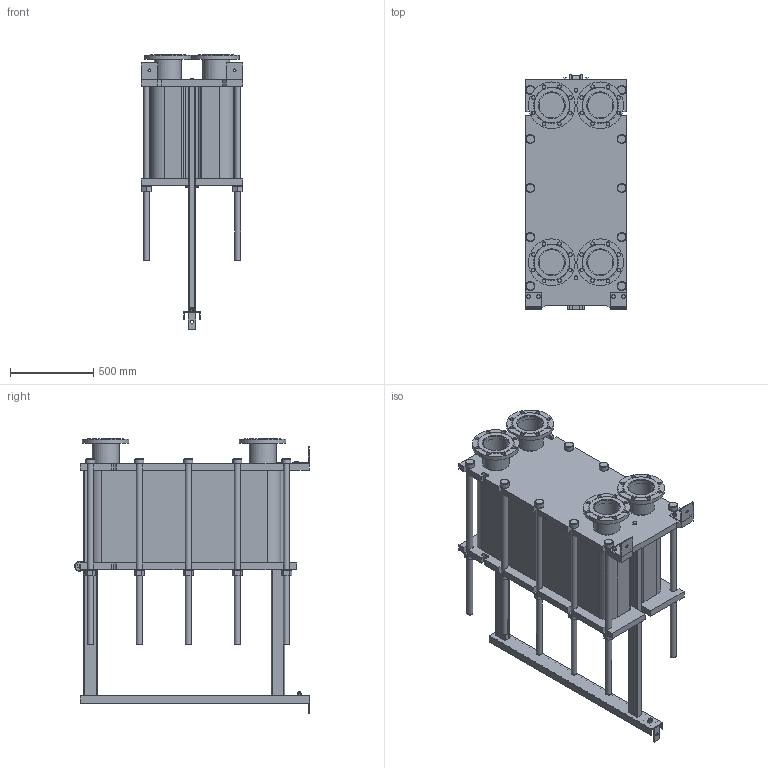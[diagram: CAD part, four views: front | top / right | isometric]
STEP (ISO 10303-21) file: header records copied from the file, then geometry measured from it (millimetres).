
FILE_DESCRIPTION(/* description */ (''),/* implementation_level */ '2;1');
FILE_NAME(/* name */ 'C:\Users\zhuro\Desktop\ENCO\TO\ЭН-041\ЭН-0,5-041-161-1.stp',/* time_stamp */ '2022-06-06T11:03:51+03:00',/* author */ ('zhuro'),/* organization */ (''),/* preprocessor_version */ 'ST-DEVELOPER v18.1',/* originating_system */ 'Autodesk Inventor 2022',/* authorisation */ '');
FILE_SCHEMA (('AUTOMOTIVE_DESIGN { 1 0 10303 214 3 1 1 }'));
Length unit declared in the file: millimetre
Products named in the file (1): ЭН-0,5-041-161-1
Bounding box: 610 x 1406.5 x 1647.5 mm (x, y, z)
Volume: 397165564.5 mm3; surface area: 10369511.1 mm2
Topology: 52 solids, 52 shells, 711 faces, 1696 edges, 1094 vertices
Faces by surface type: plane 487, cylinder 177, cone 41, torus 6
Full cylindrical faces by diameter (mm): 8 x4, 10 x2, 16 x8, 18 x3, 22 x32, 36 x24, 50 x1, 54 x10, 60 x12, 151 x4, 161 x8, 280 x4
Entity records: 22667 total; most frequent: CARTESIAN_POINT 5230, DIRECTION 3644, ORIENTED_EDGE 3392, EDGE_CURVE 1696, AXIS2_PLACEMENT_3D 1272, LINE 1100, VECTOR 1100, VERTEX_POINT 1094
